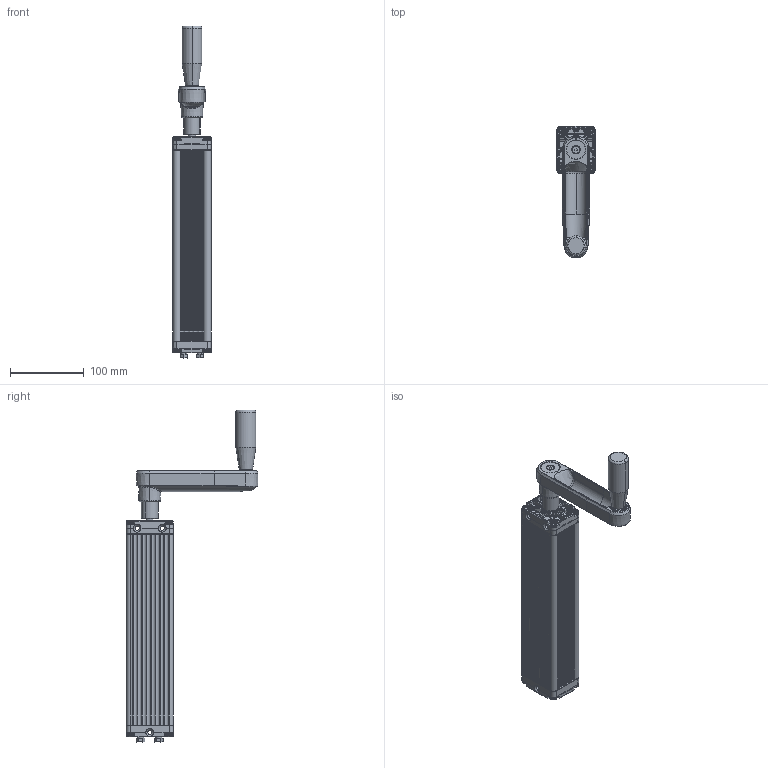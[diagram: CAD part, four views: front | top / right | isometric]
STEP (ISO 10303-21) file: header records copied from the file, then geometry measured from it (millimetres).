
FILE_DESCRIPTION (( 'STEP AP203' ), '1' );
FILE_NAME ('QXY09 Crank.STEP', '2014-01-22T18:41:25', ( '' ), ( '' ), 'SwSTEP 2.0', 'SolidWorks 2013', '' );
FILE_SCHEMA (( 'CONFIG_CONTROL_DESIGN' ));
Length unit declared in the file: millimetre
Products named in the file (1): QXY09 Crank
Bounding box: 52 x 178.32 x 448.84 mm (x, y, z)
Volume: 382171.4 mm3; surface area: 235879.6 mm2
Topology: 31 solids, 31 shells, 3408 faces, 8444 edges, 5143 vertices
Faces by surface type: cylinder 1333, plane 764, cone 476, torus 473, bspline 331, sphere 31
Entity records: 118174 total; most frequent: CARTESIAN_POINT 39462, ORIENTED_EDGE 16782, DIRECTION 16634, EDGE_CURVE 8391, AXIS2_PLACEMENT_3D 6761, VERTEX_POINT 5137, CIRCLE 3683, EDGE_LOOP 3558
